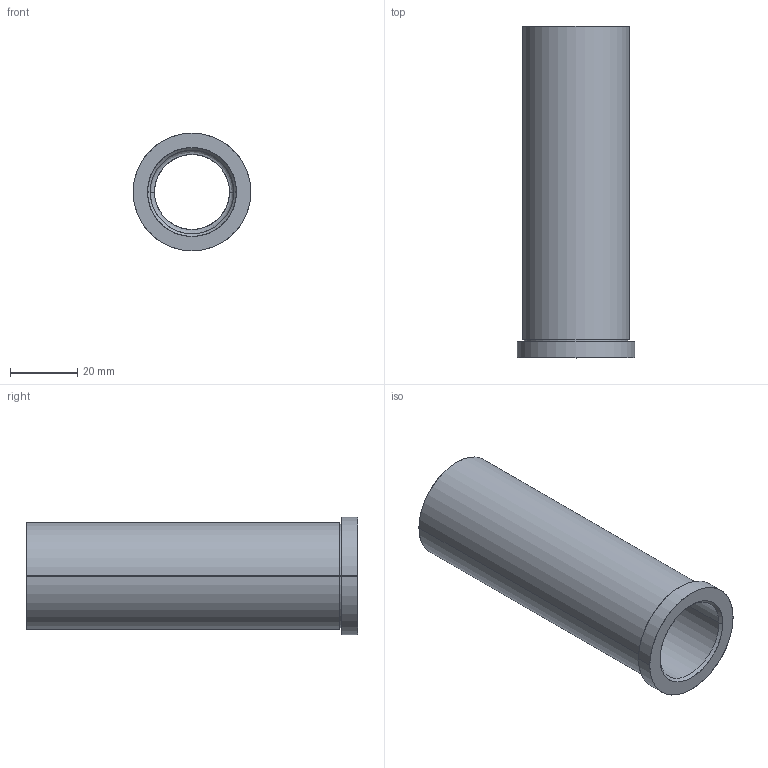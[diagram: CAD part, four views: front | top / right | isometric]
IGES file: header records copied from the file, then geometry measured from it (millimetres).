
Start section: SolidWorks IGES file using analytic representation for surfaces
Global section: file name: C:\Users\Ryan\Documents\PCS\Shoulder Bushings\BU-206.igs; native system: SolidWorks 2009; preprocessor: SolidWorks 2009; author: Ryan; date: 140226.220507; units: inch
Bounding box: 34.92 x 98.42 x 34.92 mm (x, y, z)
Surface area: 18288.9 mm2 (no closed solid volume)
Topology: 0 solids, 0 shells, 20 faces, 512 edges, 512 vertices
Faces by surface type: revolution 12, bspline 8
